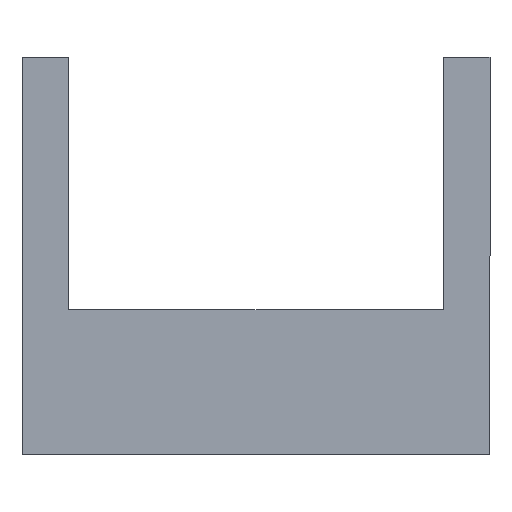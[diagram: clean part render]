
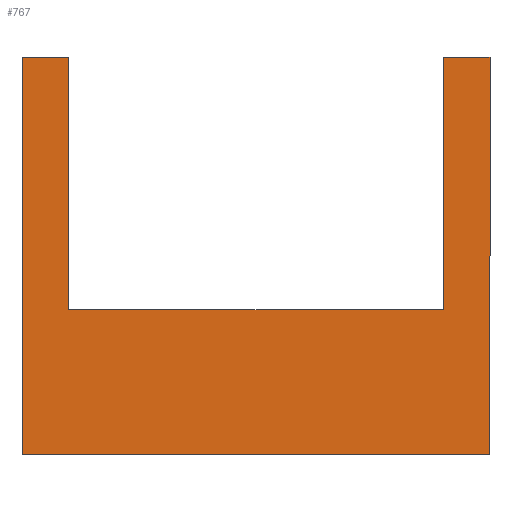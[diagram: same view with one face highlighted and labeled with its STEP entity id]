
A CAD part, front view. The second image highlights one B-rep face of the part: STEP entity #767.
In plain terms, the highlighted planar face has unit normal (0, -1, 0).
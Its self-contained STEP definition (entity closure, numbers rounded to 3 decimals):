
#8 = VECTOR ( 'NONE', #46, 1000. ) ;
#46 = DIRECTION ( 'NONE',  ( 1., 0., 0. ) ) ;
#123 = VERTEX_POINT ( 'NONE', #1693 ) ;
#156 = ORIENTED_EDGE ( 'NONE', *, *, #221, .F. ) ;
#189 = ORIENTED_EDGE ( 'NONE', *, *, #980, .F. ) ;
#221 = EDGE_CURVE ( 'NONE', #1927, #1740, #699, .T. ) ;
#264 = VECTOR ( 'NONE', #401, 1000. ) ;
#279 = EDGE_CURVE ( 'NONE', #1787, #1721, #1475, .T. ) ;
#281 = ORIENTED_EDGE ( 'NONE', *, *, #794, .T. ) ;
#289 = CARTESIAN_POINT ( 'NONE',  ( -15., -17.5, 3.5 ) ) ;
#290 = EDGE_CURVE ( 'NONE', #1787, #123, #1791, .T. ) ;
#296 = DIRECTION ( 'NONE',  ( 0., 0., -1. ) ) ;
#306 = CARTESIAN_POINT ( 'NONE',  ( 12., -17.5, 25.5 ) ) ;
#349 = VECTOR ( 'NONE', #441, 1000. ) ;
#370 = ORIENTED_EDGE ( 'NONE', *, *, #1294, .F. ) ;
#401 = DIRECTION ( 'NONE',  ( 1., 0., 0. ) ) ;
#418 = VERTEX_POINT ( 'NONE', #306 ) ;
#441 = DIRECTION ( 'NONE',  ( 0., 0., -1. ) ) ;
#475 = VECTOR ( 'NONE', #1783, 1000. ) ;
#505 = VECTOR ( 'NONE', #296, 1000. ) ;
#508 = AXIS2_PLACEMENT_3D ( 'NONE', #1674, #1529, #1825 ) ;
#623 = DIRECTION ( 'NONE',  ( 1., 0., 0. ) ) ;
#699 = LINE ( 'NONE', #1040, #349 ) ;
#752 = DIRECTION ( 'NONE',  ( 0., 0., -1. ) ) ;
#766 = LINE ( 'NONE', #1382, #505 ) ;
#767 = ADVANCED_FACE ( 'NONE', ( #1519 ), #1077, .F. ) ;
#769 = VECTOR ( 'NONE', #623, 1000. ) ;
#778 = ORIENTED_EDGE ( 'NONE', *, *, #279, .T. ) ;
#794 = EDGE_CURVE ( 'NONE', #418, #811, #766, .T. ) ;
#809 = CARTESIAN_POINT ( 'NONE',  ( -15., -17.5, 25.5 ) ) ;
#811 = VERTEX_POINT ( 'NONE', #1492 ) ;
#819 = EDGE_CURVE ( 'NONE', #418, #1927, #1816, .T. ) ;
#839 = CARTESIAN_POINT ( 'NONE',  ( 15., -17.5, 0. ) ) ;
#885 = CARTESIAN_POINT ( 'NONE',  ( 15., -17.5, 25.5 ) ) ;
#888 = DIRECTION ( 'NONE',  ( 0., 0., -1. ) ) ;
#957 = LINE ( 'NONE', #1680, #8 ) ;
#980 = EDGE_CURVE ( 'NONE', #1608, #811, #957, .T. ) ;
#1007 = CARTESIAN_POINT ( 'NONE',  ( -15., -17.5, 0. ) ) ;
#1040 = CARTESIAN_POINT ( 'NONE',  ( 15., -17.5, 3.5 ) ) ;
#1050 = LINE ( 'NONE', #1778, #1518 ) ;
#1077 = PLANE ( 'NONE',  #508 ) ;
#1154 = EDGE_LOOP ( 'NONE', ( #1164, #156, #1524, #281, #189, #370, #1910, #778 ) ) ;
#1164 = ORIENTED_EDGE ( 'NONE', *, *, #1477, .T. ) ;
#1211 = CARTESIAN_POINT ( 'NONE',  ( -15., -17.5, 0. ) ) ;
#1294 = EDGE_CURVE ( 'NONE', #123, #1608, #1050, .T. ) ;
#1367 = CARTESIAN_POINT ( 'NONE',  ( 15., -17.5, 25.5 ) ) ;
#1382 = CARTESIAN_POINT ( 'NONE',  ( 12., -17.5, 25.5 ) ) ;
#1475 = LINE ( 'NONE', #289, #1666 ) ;
#1477 = EDGE_CURVE ( 'NONE', #1721, #1740, #1618, .T. ) ;
#1492 = CARTESIAN_POINT ( 'NONE',  ( 12., -17.5, 9.3 ) ) ;
#1518 = VECTOR ( 'NONE', #752, 1000. ) ;
#1519 = FACE_OUTER_BOUND ( 'NONE', #1154, .T. ) ;
#1524 = ORIENTED_EDGE ( 'NONE', *, *, #819, .F. ) ;
#1529 = DIRECTION ( 'NONE',  ( 0., 1., 0. ) ) ;
#1608 = VERTEX_POINT ( 'NONE', #1664 ) ;
#1618 = LINE ( 'NONE', #1007, #264 ) ;
#1664 = CARTESIAN_POINT ( 'NONE',  ( -12., -17.5, 9.3 ) ) ;
#1666 = VECTOR ( 'NONE', #888, 1000. ) ;
#1674 = CARTESIAN_POINT ( 'NONE',  ( -15., -17.5, 3.5 ) ) ;
#1680 = CARTESIAN_POINT ( 'NONE',  ( -12., -17.5, 9.3 ) ) ;
#1693 = CARTESIAN_POINT ( 'NONE',  ( -12., -17.5, 25.5 ) ) ;
#1721 = VERTEX_POINT ( 'NONE', #1211 ) ;
#1740 = VERTEX_POINT ( 'NONE', #839 ) ;
#1778 = CARTESIAN_POINT ( 'NONE',  ( -12., -17.5, 25.5 ) ) ;
#1783 = DIRECTION ( 'NONE',  ( 1., 0., 0. ) ) ;
#1787 = VERTEX_POINT ( 'NONE', #809 ) ;
#1791 = LINE ( 'NONE', #1936, #475 ) ;
#1816 = LINE ( 'NONE', #1367, #769 ) ;
#1825 = DIRECTION ( 'NONE',  ( 0., 0., 1. ) ) ;
#1910 = ORIENTED_EDGE ( 'NONE', *, *, #290, .F. ) ;
#1927 = VERTEX_POINT ( 'NONE', #885 ) ;
#1936 = CARTESIAN_POINT ( 'NONE',  ( -15., -17.5, 25.5 ) ) ;
